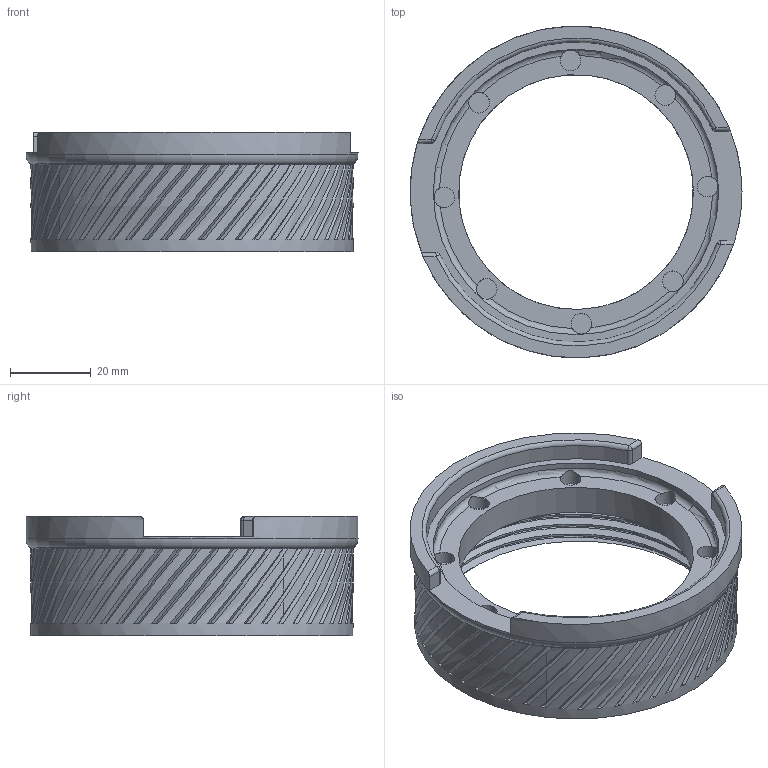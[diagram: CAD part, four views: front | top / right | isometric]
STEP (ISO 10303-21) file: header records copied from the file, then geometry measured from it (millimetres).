
FILE_DESCRIPTION(/* description */ ('STEP AP242','CAx-IF Rec.Pracs.---Representation and Presentation of Product Manufacturing Information (PMI)---4.0---2014-10-13','CAx-IF Rec.Pracs.---3D Tessellated Geometry---0.4---2014-09-14','2;1'),/* implementation_level */ '2;1');
FILE_NAME(/* name */ '64692534cac4670533c20d74',/* time_stamp */ '2023-05-20T19:53:25Z',/* author */ (''),/* organization */ (''),/* preprocessor_version */ 'ST-DEVELOPER v19.4',/* originating_system */ ' ',/* authorisation */ ' ');
FILE_SCHEMA (('AP242_MANAGED_MODEL_BASED_3D_ENGINEERING_MIM_LF { 1 0 10303 442 1 1 4 }'));
Length unit declared in the file: metre
Products named in the file (1): Base 23mm Magnet Lug
Bounding box: 82 x 82 x 29.4 mm (x, y, z)
Volume: 38793.3 mm3; surface area: 20307.5 mm2
Topology: 1 solids, 1 shells, 328 faces, 853 edges, 526 vertices
Faces by surface type: bspline 153, plane 137, cylinder 26, torus 4, cone 4, sphere 4
Full cylindrical faces by diameter (mm): 5.1 x8, 58 x1, 70.5 x1, 79.6 x1, 82 x1
Entity records: 16414 total; most frequent: CARTESIAN_POINT 10233, ORIENTED_EDGE 1618, DIRECTION 869, EDGE_CURVE 809, VERTEX_POINT 505, AXIS2_PLACEMENT_3D 396, B_SPLINE_CURVE_WITH_KNOTS 347, EDGE_LOOP 346
